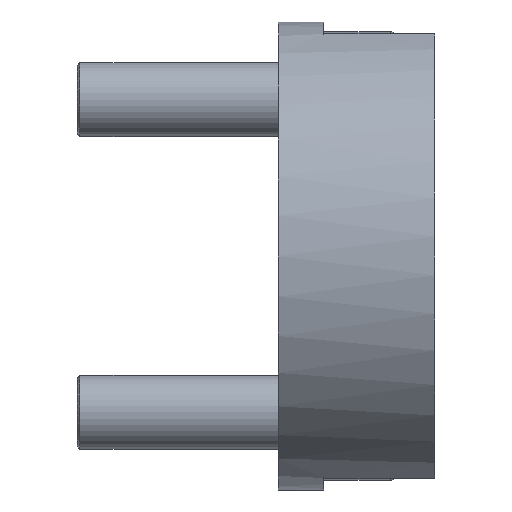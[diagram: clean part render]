
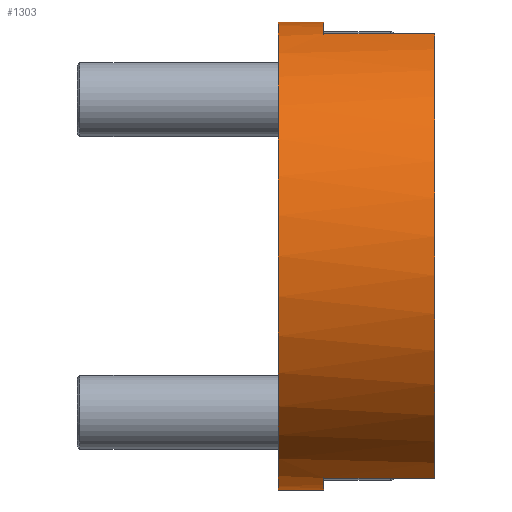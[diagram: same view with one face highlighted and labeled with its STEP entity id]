
A CAD part, left-side view. The second image highlights one B-rep face of the part: STEP entity #1303.
In plain terms, the highlighted cylindrical face has radius 9.5 mm (diameter 19 mm), a partial arc.
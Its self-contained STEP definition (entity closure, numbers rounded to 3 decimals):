
#31 = CARTESIAN_POINT ( 'NONE',  ( 0., 4.5, 9.5 ) ) ;
#33 = CARTESIAN_POINT ( 'NONE',  ( 0., 0., -9.5 ) ) ;
#38 = EDGE_CURVE ( 'NONE', #1266, #1601, #1127, .T. ) ;
#60 = EDGE_CURVE ( 'NONE', #1589, #2115, #777, .T. ) ;
#77 = ORIENTED_EDGE ( 'NONE', *, *, #737, .T. ) ;
#80 = ORIENTED_EDGE ( 'NONE', *, *, #60, .F. ) ;
#98 = EDGE_CURVE ( 'NONE', #1266, #564, #1169, .T. ) ;
#183 = CARTESIAN_POINT ( 'NONE',  ( -3., 4.5, 9.014 ) ) ;
#224 = VECTOR ( 'NONE', #1972, 1000. ) ;
#294 = EDGE_CURVE ( 'NONE', #1589, #344, #1678, .T. ) ;
#296 = ORIENTED_EDGE ( 'NONE', *, *, #949, .F. ) ;
#297 = FACE_OUTER_BOUND ( 'NONE', #1624, .T. ) ;
#316 = DIRECTION ( 'NONE',  ( 0., -1., 0. ) ) ;
#325 = CIRCLE ( 'NONE', #1368, 9.5 ) ;
#344 = VERTEX_POINT ( 'NONE', #463 ) ;
#438 = DIRECTION ( 'NONE',  ( 0., -1., 0. ) ) ;
#452 = CYLINDRICAL_SURFACE ( 'NONE', #1543, 9.5 ) ;
#463 = CARTESIAN_POINT ( 'NONE',  ( -3., 4.5, -9.014 ) ) ;
#564 = VERTEX_POINT ( 'NONE', #31 ) ;
#620 = DIRECTION ( 'NONE',  ( 0., 0., 1. ) ) ;
#646 = ORIENTED_EDGE ( 'NONE', *, *, #294, .T. ) ;
#655 = DIRECTION ( 'NONE',  ( 0., 1., 0. ) ) ;
#674 = DIRECTION ( 'NONE',  ( 0., 0., 1. ) ) ;
#737 = EDGE_CURVE ( 'NONE', #564, #1153, #1404, .T. ) ;
#777 = LINE ( 'NONE', #33, #831 ) ;
#831 = VECTOR ( 'NONE', #655, 1000. ) ;
#847 = EDGE_CURVE ( 'NONE', #1416, #344, #867, .T. ) ;
#867 = LINE ( 'NONE', #1131, #1553 ) ;
#876 = DIRECTION ( 'NONE',  ( 0., 0., 1. ) ) ;
#949 = EDGE_CURVE ( 'NONE', #1601, #1416, #1136, .T. ) ;
#958 = CARTESIAN_POINT ( 'NONE',  ( 0., 0., 0. ) ) ;
#959 = DIRECTION ( 'NONE',  ( 0., 0., 1. ) ) ;
#976 = CARTESIAN_POINT ( 'NONE',  ( 0., 6.35, 0. ) ) ;
#986 = AXIS2_PLACEMENT_3D ( 'NONE', #1409, #1777, #1457 ) ;
#987 = CARTESIAN_POINT ( 'NONE',  ( 0., 6.35, 9.5 ) ) ;
#1050 = DIRECTION ( 'NONE',  ( 0., -1., 0. ) ) ;
#1081 = CARTESIAN_POINT ( 'NONE',  ( 0., 6.35, -9.5 ) ) ;
#1127 = LINE ( 'NONE', #1770, #1217 ) ;
#1131 = CARTESIAN_POINT ( 'NONE',  ( -3., 0., -9.014 ) ) ;
#1136 = CIRCLE ( 'NONE', #1818, 9.5 ) ;
#1153 = VERTEX_POINT ( 'NONE', #987 ) ;
#1169 = CIRCLE ( 'NONE', #2041, 9.5 ) ;
#1187 = DIRECTION ( 'NONE',  ( 0., 1., 0. ) ) ;
#1217 = VECTOR ( 'NONE', #316, 1000. ) ;
#1223 = EDGE_CURVE ( 'NONE', #1153, #2115, #325, .T. ) ;
#1266 = VERTEX_POINT ( 'NONE', #183 ) ;
#1274 = CARTESIAN_POINT ( 'NONE',  ( 0., 4.5, -9.5 ) ) ;
#1303 = ADVANCED_FACE ( 'NONE', ( #297 ), #452, .T. ) ;
#1336 = CARTESIAN_POINT ( 'NONE',  ( 0., 0., 0. ) ) ;
#1366 = ORIENTED_EDGE ( 'NONE', *, *, #38, .F. ) ;
#1368 = AXIS2_PLACEMENT_3D ( 'NONE', #976, #1050, #876 ) ;
#1404 = LINE ( 'NONE', #1634, #224 ) ;
#1409 = CARTESIAN_POINT ( 'NONE',  ( 0., 4.5, 0. ) ) ;
#1416 = VERTEX_POINT ( 'NONE', #1650 ) ;
#1457 = DIRECTION ( 'NONE',  ( 0., 0., 1. ) ) ;
#1495 = ORIENTED_EDGE ( 'NONE', *, *, #98, .T. ) ;
#1543 = AXIS2_PLACEMENT_3D ( 'NONE', #1336, #1187, #674 ) ;
#1553 = VECTOR ( 'NONE', #2095, 1000. ) ;
#1589 = VERTEX_POINT ( 'NONE', #1274 ) ;
#1601 = VERTEX_POINT ( 'NONE', #1917 ) ;
#1624 = EDGE_LOOP ( 'NONE', ( #80, #646, #2001, #296, #1366, #1495, #77, #1876 ) ) ;
#1634 = CARTESIAN_POINT ( 'NONE',  ( 0., 0., 9.5 ) ) ;
#1650 = CARTESIAN_POINT ( 'NONE',  ( -3., 0., -9.014 ) ) ;
#1678 = CIRCLE ( 'NONE', #986, 9.5 ) ;
#1695 = CARTESIAN_POINT ( 'NONE',  ( 0., 4.5, 0. ) ) ;
#1770 = CARTESIAN_POINT ( 'NONE',  ( -3., 0., 9.014 ) ) ;
#1777 = DIRECTION ( 'NONE',  ( 0., 1., 0. ) ) ;
#1818 = AXIS2_PLACEMENT_3D ( 'NONE', #958, #438, #620 ) ;
#1864 = DIRECTION ( 'NONE',  ( 0., 1., 0. ) ) ;
#1876 = ORIENTED_EDGE ( 'NONE', *, *, #1223, .T. ) ;
#1917 = CARTESIAN_POINT ( 'NONE',  ( -3., 0., 9.014 ) ) ;
#1972 = DIRECTION ( 'NONE',  ( 0., 1., 0. ) ) ;
#2001 = ORIENTED_EDGE ( 'NONE', *, *, #847, .F. ) ;
#2041 = AXIS2_PLACEMENT_3D ( 'NONE', #1695, #1864, #959 ) ;
#2095 = DIRECTION ( 'NONE',  ( 0., 1., 0. ) ) ;
#2115 = VERTEX_POINT ( 'NONE', #1081 ) ;
